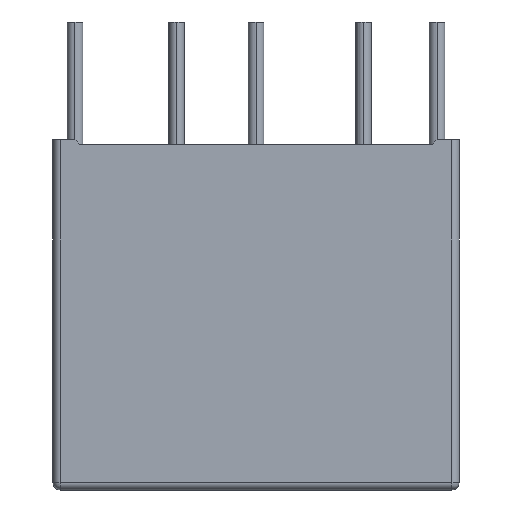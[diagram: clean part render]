
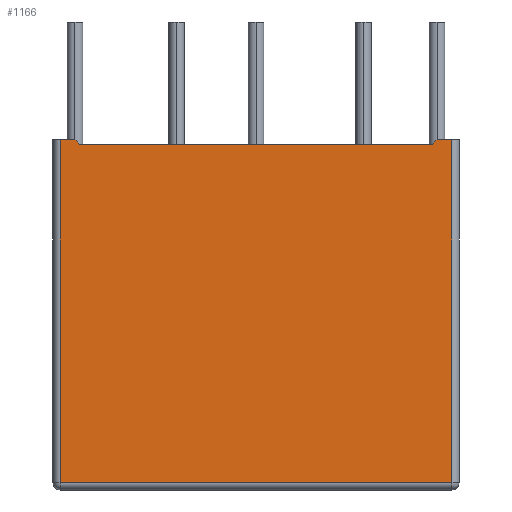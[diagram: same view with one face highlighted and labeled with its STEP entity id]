
A CAD part, front view. The second image highlights one B-rep face of the part: STEP entity #1166.
In plain terms, the highlighted planar face has unit normal (0, -1, 0).
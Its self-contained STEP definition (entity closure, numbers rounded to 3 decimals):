
#226=DIRECTION('',(1.,0.,0.));
#227=VECTOR('',#226,1.);
#228=CARTESIAN_POINT('',(26.1,0.,23.8));
#229=LINE('',#228,#227);
#244=DIRECTION('',(-0.707,0.,0.707));
#245=VECTOR('',#244,0.424);
#246=CARTESIAN_POINT('',(1.8,0.,23.5));
#247=LINE('',#246,#245);
#248=DIRECTION('',(-1.,0.,0.));
#249=VECTOR('',#248,24.);
#250=CARTESIAN_POINT('',(25.8,0.,23.5));
#251=LINE('',#250,#249);
#252=DIRECTION('',(-0.707,0.,-0.707));
#253=VECTOR('',#252,0.424);
#254=CARTESIAN_POINT('',(26.1,0.,23.8));
#255=LINE('',#254,#253);
#256=DIRECTION('',(-1.,0.,0.));
#257=VECTOR('',#256,26.6);
#258=CARTESIAN_POINT('',(27.1,0.,0.5));
#259=LINE('',#258,#257);
#279=DIRECTION('',(0.,0.,1.));
#280=VECTOR('',#279,23.3);
#281=CARTESIAN_POINT('',(0.5,0.,0.5));
#282=LINE('',#281,#280);
#292=DIRECTION('',(1.,0.,0.));
#293=VECTOR('',#292,1.);
#294=CARTESIAN_POINT('',(0.5,0.,23.8));
#295=LINE('',#294,#293);
#496=DIRECTION('',(0.,0.,-1.));
#497=VECTOR('',#496,23.3);
#498=CARTESIAN_POINT('',(27.1,0.,23.8));
#499=LINE('',#498,#497);
#658=CARTESIAN_POINT('',(27.1,0.,0.5));
#659=CARTESIAN_POINT('',(0.5,0.,0.5));
#660=VERTEX_POINT('',#658);
#661=VERTEX_POINT('',#659);
#702=CARTESIAN_POINT('',(26.1,0.,23.8));
#703=CARTESIAN_POINT('',(27.1,0.,23.8));
#704=VERTEX_POINT('',#702);
#705=VERTEX_POINT('',#703);
#714=CARTESIAN_POINT('',(0.5,0.,23.8));
#715=CARTESIAN_POINT('',(1.5,0.,23.8));
#716=VERTEX_POINT('',#714);
#717=VERTEX_POINT('',#715);
#746=CARTESIAN_POINT('',(25.8,0.,23.5));
#747=CARTESIAN_POINT('',(1.8,0.,23.5));
#748=VERTEX_POINT('',#746);
#749=VERTEX_POINT('',#747);
#1145=CARTESIAN_POINT('',(0.,0.,0.));
#1146=DIRECTION('',(0.,-1.,0.));
#1147=DIRECTION('',(0.,0.,-1.));
#1148=AXIS2_PLACEMENT_3D('',#1145,#1146,#1147);
#1149=PLANE('',#1148);
#1151=ORIENTED_EDGE('',*,*,#1150,.T.);
#1153=ORIENTED_EDGE('',*,*,#1152,.T.);
#1155=ORIENTED_EDGE('',*,*,#1154,.T.);
#1157=ORIENTED_EDGE('',*,*,#1156,.F.);
#1158=ORIENTED_EDGE('',*,*,#921,.F.);
#1160=ORIENTED_EDGE('',*,*,#1159,.F.);
#1161=ORIENTED_EDGE('',*,*,#1131,.T.);
#1163=ORIENTED_EDGE('',*,*,#1162,.T.);
#1164=EDGE_LOOP('',(#1151,#1153,#1155,#1157,#1158,#1160,#1161,#1163));
#1165=FACE_OUTER_BOUND('',#1164,.F.);
#1166=ADVANCED_FACE('',(#1165),#1149,.T.);
#921=EDGE_CURVE('',#748,#749,#251,.T.);
#1131=EDGE_CURVE('',#704,#705,#229,.T.);
#1150=EDGE_CURVE('',#660,#661,#259,.T.);
#1152=EDGE_CURVE('',#661,#716,#282,.T.);
#1154=EDGE_CURVE('',#716,#717,#295,.T.);
#1156=EDGE_CURVE('',#749,#717,#247,.T.);
#1159=EDGE_CURVE('',#704,#748,#255,.T.);
#1162=EDGE_CURVE('',#705,#660,#499,.T.);
